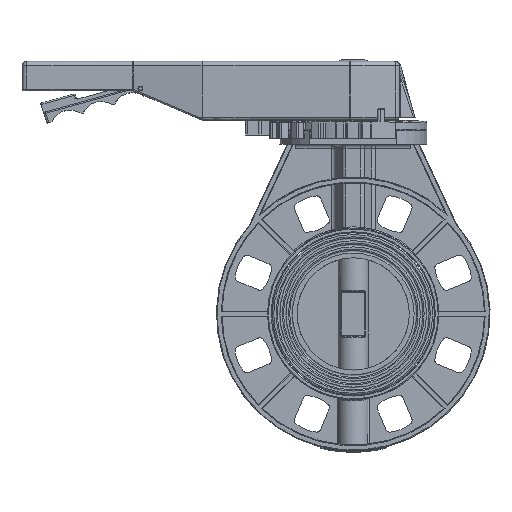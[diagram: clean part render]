
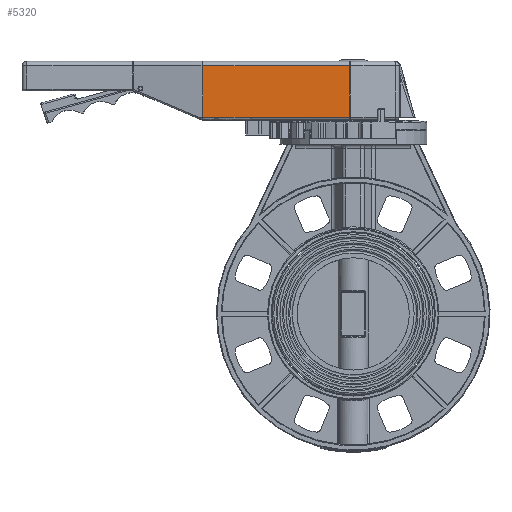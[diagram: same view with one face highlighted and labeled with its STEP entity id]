
A CAD part, top view. The second image highlights one B-rep face of the part: STEP entity #5320.
In plain terms, the highlighted planar face has unit normal (0, 0, 1).
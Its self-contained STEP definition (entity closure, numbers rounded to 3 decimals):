
#5320=ADVANCED_FACE('',(#16185),#16187,.T.);
#16185=FACE_BOUND('',#16186,.T.);
#16186=EDGE_LOOP('',(#29774,#29775,#29776,#29777));
#16187=PLANE('',#16188);
#16188=AXIS2_PLACEMENT_3D('',#16189,#16190,#16191);
#16189=CARTESIAN_POINT('',(-157.136,138.1,18.693));
#16190=DIRECTION('',(0.,0.,1.));
#16191=DIRECTION('',(1.,0.,0.));
#29774=ORIENTED_EDGE('',*,*,#32840,.F.);
#29775=ORIENTED_EDGE('',*,*,#33307,.F.);
#29776=ORIENTED_EDGE('',*,*,#33308,.F.);
#29777=ORIENTED_EDGE('',*,*,#33309,.F.);
#32840=EDGE_CURVE('',#36076,#36081,#36082,.T.);
#33307=EDGE_CURVE('',#36824,#36076,#36826,.T.);
#33308=EDGE_CURVE('',#36827,#36824,#36828,.T.);
#33309=EDGE_CURVE('',#36081,#36827,#36829,.T.);
#36076=VERTEX_POINT('',#54849);
#36081=VERTEX_POINT('',#54933);
#36082=LINE('',#54934,#54935);
#36824=VERTEX_POINT('',#59154);
#36826=LINE('',#59159,#59160);
#36827=VERTEX_POINT('',#59162);
#36828=LINE('',#59163,#59164);
#36829=LINE('',#59166,#59167);
#54849=CARTESIAN_POINT('',(-2.63,140.203,18.693));
#54933=CARTESIAN_POINT('',(-107.137,140.203,18.693));
#54934=CARTESIAN_POINT('',(-2.63,140.203,18.693));
#54935=VECTOR('',#54936,1.);
#54936=DIRECTION('',(-1.,0.,0.));
#59154=CARTESIAN_POINT('',(-2.63,176.794,18.693));
#59159=CARTESIAN_POINT('',(-2.63,176.794,18.693));
#59160=VECTOR('',#59161,1.);
#59161=DIRECTION('',(0.,-1.,0.));
#59162=CARTESIAN_POINT('',(-107.137,176.794,18.693));
#59163=CARTESIAN_POINT('',(-107.137,176.794,18.693));
#59164=VECTOR('',#59165,1.);
#59165=DIRECTION('',(1.,0.,0.));
#59166=CARTESIAN_POINT('',(-107.137,140.203,18.693));
#59167=VECTOR('',#59168,1.);
#59168=DIRECTION('',(0.,1.,0.));
